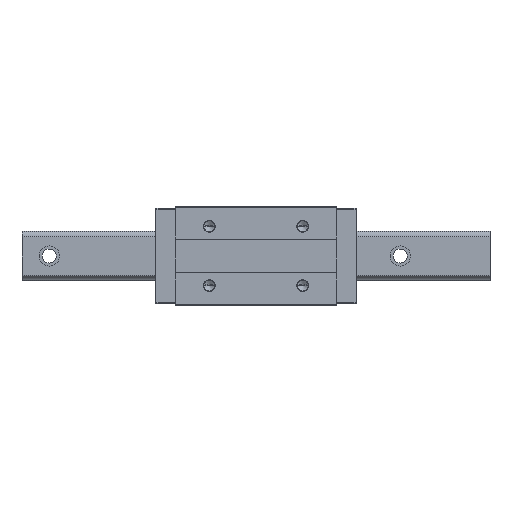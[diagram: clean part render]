
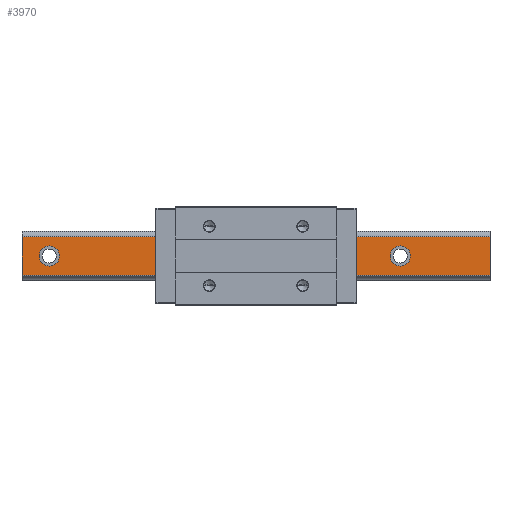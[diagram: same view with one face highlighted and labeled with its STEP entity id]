
A CAD part, top view. The second image highlights one B-rep face of the part: STEP entity #3970.
In plain terms, the highlighted planar face has unit normal (0, 0, 1).
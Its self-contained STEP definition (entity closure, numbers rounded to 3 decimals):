
#16 = AXIS2_PLACEMENT_3D ( 'NONE', #835, #2906, #1690 ) ;
#24 = FACE_BOUND ( 'NONE', #1669, .T. ) ;
#138 = VERTEX_POINT ( 'NONE', #3595 ) ;
#162 = ORIENTED_EDGE ( 'NONE', *, *, #970, .F. ) ;
#212 = CARTESIAN_POINT ( 'NONE',  ( 185., 0., 53. ) ) ;
#215 = CARTESIAN_POINT ( 'NONE',  ( -252., 0., 53. ) ) ;
#293 = EDGE_LOOP ( 'NONE', ( #3061, #4139 ) ) ;
#338 = DIRECTION ( 'NONE',  ( 0., 0., 1. ) ) ;
#465 = DIRECTION ( 'NONE',  ( 1., 0., 0. ) ) ;
#512 = CARTESIAN_POINT ( 'NONE',  ( -300., 24.864, 53. ) ) ;
#564 = DIRECTION ( 'NONE',  ( -1., 0., 0. ) ) ;
#607 = CIRCLE ( 'NONE', #3596, 13. ) ;
#614 = CIRCLE ( 'NONE', #4034, 13. ) ;
#684 = ORIENTED_EDGE ( 'NONE', *, *, #1296, .F. ) ;
#729 = AXIS2_PLACEMENT_3D ( 'NONE', #3339, #4601, #2509 ) ;
#757 = EDGE_LOOP ( 'NONE', ( #162, #4281 ) ) ;
#835 = CARTESIAN_POINT ( 'NONE',  ( 300., -24.864, 53. ) ) ;
#970 = EDGE_CURVE ( 'NONE', #4345, #4665, #3973, .T. ) ;
#972 = EDGE_CURVE ( 'NONE', #1624, #1051, #5032, .T. ) ;
#1022 = DIRECTION ( 'NONE',  ( 1., 0., 0. ) ) ;
#1051 = VERTEX_POINT ( 'NONE', #512 ) ;
#1061 = VERTEX_POINT ( 'NONE', #1326 ) ;
#1115 = DIRECTION ( 'NONE',  ( 0., -1., 0. ) ) ;
#1117 = VECTOR ( 'NONE', #2876, 1000. ) ;
#1135 = CARTESIAN_POINT ( 'NONE',  ( -115., 0., 53. ) ) ;
#1184 = CARTESIAN_POINT ( 'NONE',  ( 185., 0., 53. ) ) ;
#1296 = EDGE_CURVE ( 'NONE', #138, #1421, #614, .T. ) ;
#1326 = CARTESIAN_POINT ( 'NONE',  ( 172., 0., 53. ) ) ;
#1421 = VERTEX_POINT ( 'NONE', #4597 ) ;
#1466 = CIRCLE ( 'NONE', #5137, 13. ) ;
#1618 = CARTESIAN_POINT ( 'NONE',  ( 300., -24.864, 53. ) ) ;
#1624 = VERTEX_POINT ( 'NONE', #3602 ) ;
#1638 = FACE_BOUND ( 'NONE', #4867, .T. ) ;
#1669 = EDGE_LOOP ( 'NONE', ( #4703, #684 ) ) ;
#1690 = DIRECTION ( 'NONE',  ( 0., 1., 0. ) ) ;
#1706 = CIRCLE ( 'NONE', #2310, 13. ) ;
#1724 = CIRCLE ( 'NONE', #3934, 13. ) ;
#1741 = VERTEX_POINT ( 'NONE', #3632 ) ;
#1747 = EDGE_LOOP ( 'NONE', ( #2420, #3539, #5098, #3586 ) ) ;
#1870 = ORIENTED_EDGE ( 'NONE', *, *, #4592, .F. ) ;
#1874 = DIRECTION ( 'NONE',  ( 1., 0., 0. ) ) ;
#1915 = CARTESIAN_POINT ( 'NONE',  ( 22., 0., 53. ) ) ;
#1970 = CARTESIAN_POINT ( 'NONE',  ( -278., 0., 53. ) ) ;
#1988 = VERTEX_POINT ( 'NONE', #1970 ) ;
#1994 = CARTESIAN_POINT ( 'NONE',  ( -265., 0., 53. ) ) ;
#2014 = FACE_BOUND ( 'NONE', #757, .T. ) ;
#2128 = EDGE_CURVE ( 'NONE', #2414, #2533, #3277, .T. ) ;
#2282 = EDGE_CURVE ( 'NONE', #4665, #4345, #1706, .T. ) ;
#2310 = AXIS2_PLACEMENT_3D ( 'NONE', #3103, #3961, #1022 ) ;
#2340 = CARTESIAN_POINT ( 'NONE',  ( -300., -24.864, 53. ) ) ;
#2414 = VERTEX_POINT ( 'NONE', #1618 ) ;
#2418 = PLANE ( 'NONE',  #16 ) ;
#2420 = ORIENTED_EDGE ( 'NONE', *, *, #3501, .T. ) ;
#2438 = LINE ( 'NONE', #4773, #3099 ) ;
#2443 = CARTESIAN_POINT ( 'NONE',  ( 48., 0., 53. ) ) ;
#2509 = DIRECTION ( 'NONE',  ( 1., 0., 0. ) ) ;
#2533 = VERTEX_POINT ( 'NONE', #4757 ) ;
#2734 = LINE ( 'NONE', #2340, #4361 ) ;
#2762 = DIRECTION ( 'NONE',  ( 0., 0., 1. ) ) ;
#2764 = DIRECTION ( 'NONE',  ( 0., 0., 1. ) ) ;
#2839 = FACE_OUTER_BOUND ( 'NONE', #1747, .T. ) ;
#2876 = DIRECTION ( 'NONE',  ( -1., 0., 0. ) ) ;
#2906 = DIRECTION ( 'NONE',  ( 0., 0., -1. ) ) ;
#3061 = ORIENTED_EDGE ( 'NONE', *, *, #3336, .F. ) ;
#3099 = VECTOR ( 'NONE', #1115, 1000. ) ;
#3103 = CARTESIAN_POINT ( 'NONE',  ( 35., 0., 53. ) ) ;
#3178 = ORIENTED_EDGE ( 'NONE', *, *, #3531, .F. ) ;
#3232 = FACE_BOUND ( 'NONE', #293, .T. ) ;
#3277 = LINE ( 'NONE', #4909, #1117 ) ;
#3336 = EDGE_CURVE ( 'NONE', #1741, #1061, #1466, .T. ) ;
#3339 = CARTESIAN_POINT ( 'NONE',  ( 35., 0., 53. ) ) ;
#3501 = EDGE_CURVE ( 'NONE', #1051, #2533, #2734, .T. ) ;
#3519 = CIRCLE ( 'NONE', #4806, 13. ) ;
#3531 = EDGE_CURVE ( 'NONE', #1988, #5287, #1724, .T. ) ;
#3539 = ORIENTED_EDGE ( 'NONE', *, *, #2128, .F. ) ;
#3586 = ORIENTED_EDGE ( 'NONE', *, *, #972, .T. ) ;
#3595 = CARTESIAN_POINT ( 'NONE',  ( -128., 0., 53. ) ) ;
#3596 = AXIS2_PLACEMENT_3D ( 'NONE', #1184, #4865, #3679 ) ;
#3602 = CARTESIAN_POINT ( 'NONE',  ( 300., 24.864, 53. ) ) ;
#3616 = DIRECTION ( 'NONE',  ( 1., 0., 0. ) ) ;
#3632 = CARTESIAN_POINT ( 'NONE',  ( 198., 0., 53. ) ) ;
#3679 = DIRECTION ( 'NONE',  ( 1., 0., 0. ) ) ;
#3922 = EDGE_CURVE ( 'NONE', #1061, #1741, #607, .T. ) ;
#3934 = AXIS2_PLACEMENT_3D ( 'NONE', #4786, #2762, #465 ) ;
#3959 = DIRECTION ( 'NONE',  ( 0., -1., 0. ) ) ;
#3961 = DIRECTION ( 'NONE',  ( 0., 0., 1. ) ) ;
#3970 = ADVANCED_FACE ( 'NONE', ( #3232, #2014, #24, #1638, #2839 ), #2418, .F. ) ;
#3973 = CIRCLE ( 'NONE', #729, 13. ) ;
#4005 = CARTESIAN_POINT ( 'NONE',  ( -115., 0., 53. ) ) ;
#4019 = DIRECTION ( 'NONE',  ( 0., 0., 1. ) ) ;
#4034 = AXIS2_PLACEMENT_3D ( 'NONE', #1135, #2764, #4468 ) ;
#4063 = VECTOR ( 'NONE', #564, 1000. ) ;
#4139 = ORIENTED_EDGE ( 'NONE', *, *, #3922, .F. ) ;
#4271 = DIRECTION ( 'NONE',  ( 0., 0., 1. ) ) ;
#4281 = ORIENTED_EDGE ( 'NONE', *, *, #2282, .F. ) ;
#4287 = CIRCLE ( 'NONE', #4374, 13. ) ;
#4345 = VERTEX_POINT ( 'NONE', #2443 ) ;
#4361 = VECTOR ( 'NONE', #3959, 1000. ) ;
#4374 = AXIS2_PLACEMENT_3D ( 'NONE', #4005, #338, #4987 ) ;
#4395 = EDGE_CURVE ( 'NONE', #1421, #138, #4287, .T. ) ;
#4468 = DIRECTION ( 'NONE',  ( 1., 0., 0. ) ) ;
#4592 = EDGE_CURVE ( 'NONE', #5287, #1988, #3519, .T. ) ;
#4597 = CARTESIAN_POINT ( 'NONE',  ( -102., 0., 53. ) ) ;
#4601 = DIRECTION ( 'NONE',  ( 0., 0., 1. ) ) ;
#4630 = CARTESIAN_POINT ( 'NONE',  ( 300., 24.864, 53. ) ) ;
#4665 = VERTEX_POINT ( 'NONE', #1915 ) ;
#4703 = ORIENTED_EDGE ( 'NONE', *, *, #4395, .F. ) ;
#4757 = CARTESIAN_POINT ( 'NONE',  ( -300., -24.864, 53. ) ) ;
#4773 = CARTESIAN_POINT ( 'NONE',  ( 300., -24.864, 53. ) ) ;
#4786 = CARTESIAN_POINT ( 'NONE',  ( -265., 0., 53. ) ) ;
#4806 = AXIS2_PLACEMENT_3D ( 'NONE', #1994, #4019, #3616 ) ;
#4865 = DIRECTION ( 'NONE',  ( 0., 0., 1. ) ) ;
#4867 = EDGE_LOOP ( 'NONE', ( #1870, #3178 ) ) ;
#4909 = CARTESIAN_POINT ( 'NONE',  ( 300., -24.864, 53. ) ) ;
#4914 = EDGE_CURVE ( 'NONE', #1624, #2414, #2438, .T. ) ;
#4987 = DIRECTION ( 'NONE',  ( 1., 0., 0. ) ) ;
#5032 = LINE ( 'NONE', #4630, #4063 ) ;
#5098 = ORIENTED_EDGE ( 'NONE', *, *, #4914, .F. ) ;
#5137 = AXIS2_PLACEMENT_3D ( 'NONE', #212, #4271, #1874 ) ;
#5287 = VERTEX_POINT ( 'NONE', #215 ) ;
